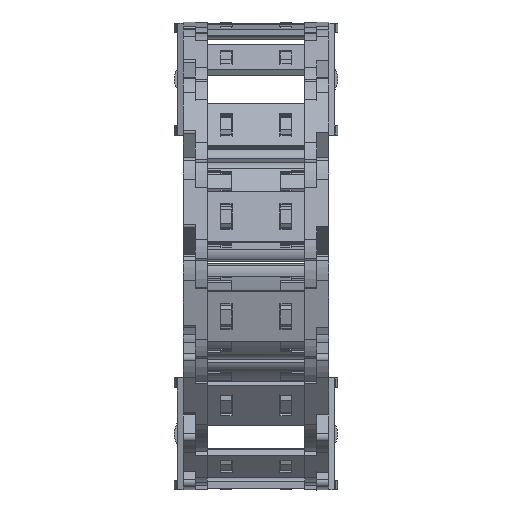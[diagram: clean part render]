
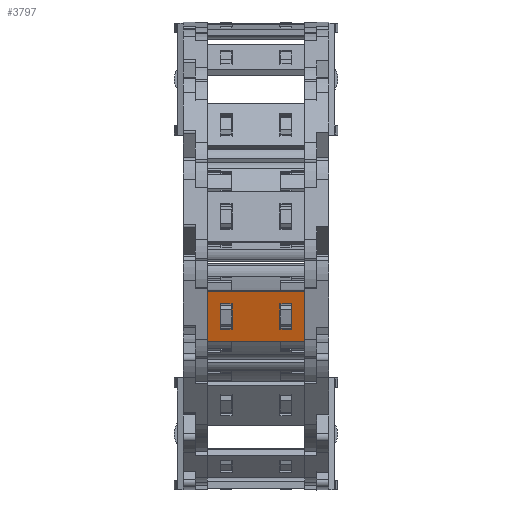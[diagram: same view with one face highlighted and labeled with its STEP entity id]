
A CAD part, top view. The second image highlights one B-rep face of the part: STEP entity #3797.
In plain terms, the highlighted planar face has unit normal (0, -0.259, 0.966) as drawn and (0, 1, 0) by its records, which use the part's own axes.
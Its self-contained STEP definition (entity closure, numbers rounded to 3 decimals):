
#2923=DIRECTION('',(0.,0.,1.));
#2924=VECTOR('',#2923,15.8);
#2925=CARTESIAN_POINT('',(15.24,1.5,-7.9));
#2926=LINE('',#2925,#2924);
#2930=DIRECTION('',(-1.,0.,0.));
#2931=VECTOR('',#2930,30.);
#2932=CARTESIAN_POINT('',(15.24,1.5,7.9));
#2933=LINE('',#2932,#2931);
#2937=DIRECTION('',(0.,0.,-1.));
#2938=VECTOR('',#2937,15.8);
#2939=CARTESIAN_POINT('',(-14.76,1.5,7.9));
#2940=LINE('',#2939,#2938);
#2944=DIRECTION('',(1.,0.,0.));
#2945=VECTOR('',#2944,3.648);
#2946=CARTESIAN_POINT('',(7.622,1.5,4.075));
#2947=LINE('',#2946,#2945);
#2951=DIRECTION('',(0.,0.,-1.));
#2952=VECTOR('',#2951,8.15);
#2953=CARTESIAN_POINT('',(11.27,1.5,4.075));
#2954=LINE('',#2953,#2952);
#2958=DIRECTION('',(-1.,0.,0.));
#2959=VECTOR('',#2958,3.648);
#2960=CARTESIAN_POINT('',(11.27,1.5,-4.075));
#2961=LINE('',#2960,#2959);
#2965=DIRECTION('',(0.,0.,-1.));
#2966=VECTOR('',#2965,8.15);
#2967=CARTESIAN_POINT('',(-7.142,1.5,4.075));
#2968=LINE('',#2967,#2966);
#2972=DIRECTION('',(-1.,0.,0.));
#2973=VECTOR('',#2972,3.648);
#2974=CARTESIAN_POINT('',(-7.142,1.5,-4.075));
#2975=LINE('',#2974,#2973);
#2979=DIRECTION('',(0.,0.,1.));
#2980=VECTOR('',#2979,8.15);
#2981=CARTESIAN_POINT('',(-10.79,1.5,-4.075));
#2982=LINE('',#2981,#2980);
#2986=DIRECTION('',(1.,0.,0.));
#2987=VECTOR('',#2986,3.648);
#2988=CARTESIAN_POINT('',(-10.79,1.5,4.075));
#2989=LINE('',#2988,#2987);
#3000=DIRECTION('',(-1.,0.,0.));
#3001=VECTOR('',#3000,30.);
#3002=CARTESIAN_POINT('',(15.24,1.5,-7.9));
#3003=LINE('',#3002,#3001);
#3208=DIRECTION('',(0.,0.,-1.));
#3209=VECTOR('',#3208,8.15);
#3210=CARTESIAN_POINT('',(7.622,1.5,4.075));
#3211=LINE('',#3210,#3209);
#3507=CARTESIAN_POINT('',(11.27,1.5,4.075));
#3508=VERTEX_POINT('',#3507);
#3509=CARTESIAN_POINT('',(7.622,1.5,4.075));
#3510=VERTEX_POINT('',#3509);
#3551=CARTESIAN_POINT('',(7.622,1.5,-4.075));
#3552=VERTEX_POINT('',#3551);
#3553=CARTESIAN_POINT('',(11.27,1.5,-4.075));
#3554=VERTEX_POINT('',#3553);
#3555=CARTESIAN_POINT('',(15.24,1.5,7.9));
#3557=VERTEX_POINT('',#3555);
#3559=CARTESIAN_POINT('',(15.24,1.5,-7.9));
#3560=VERTEX_POINT('',#3559);
#3583=CARTESIAN_POINT('',(-7.142,1.5,4.075));
#3584=CARTESIAN_POINT('',(-7.142,1.5,-4.075));
#3585=VERTEX_POINT('',#3583);
#3586=VERTEX_POINT('',#3584);
#3587=CARTESIAN_POINT('',(-10.79,1.5,-4.075));
#3588=VERTEX_POINT('',#3587);
#3589=CARTESIAN_POINT('',(-10.79,1.5,4.075));
#3590=VERTEX_POINT('',#3589);
#3591=CARTESIAN_POINT('',(-14.76,1.5,7.9));
#3592=VERTEX_POINT('',#3591);
#3595=CARTESIAN_POINT('',(-14.76,1.5,-7.9));
#3596=VERTEX_POINT('',#3595);
#3766=CARTESIAN_POINT('',(46.98,1.5,10.061));
#3767=DIRECTION('',(0.,-1.,0.));
#3768=DIRECTION('',(0.,0.,-1.));
#3769=AXIS2_PLACEMENT_3D('',#3766,#3767,#3768);
#3770=PLANE('',#3769);
#3771=ORIENTED_EDGE('',*,*,#3669,.T.);
#3772=ORIENTED_EDGE('',*,*,#3707,.T.);
#3773=ORIENTED_EDGE('',*,*,#3732,.T.);
#3775=ORIENTED_EDGE('',*,*,#3774,.F.);
#3776=EDGE_LOOP('',(#3771,#3772,#3773,#3775));
#3777=FACE_OUTER_BOUND('',#3776,.F.);
#3779=ORIENTED_EDGE('',*,*,#3778,.F.);
#3780=ORIENTED_EDGE('',*,*,#3608,.T.);
#3782=ORIENTED_EDGE('',*,*,#3781,.T.);
#3784=ORIENTED_EDGE('',*,*,#3783,.T.);
#3785=EDGE_LOOP('',(#3779,#3780,#3782,#3784));
#3786=FACE_BOUND('',#3785,.F.);
#3788=ORIENTED_EDGE('',*,*,#3787,.T.);
#3790=ORIENTED_EDGE('',*,*,#3789,.T.);
#3792=ORIENTED_EDGE('',*,*,#3791,.T.);
#3794=ORIENTED_EDGE('',*,*,#3793,.T.);
#3795=EDGE_LOOP('',(#3788,#3790,#3792,#3794));
#3796=FACE_BOUND('',#3795,.F.);
#3797=ADVANCED_FACE('',(#3777,#3786,#3796),#3770,.F.);
#3608=EDGE_CURVE('',#3510,#3508,#2947,.T.);
#3669=EDGE_CURVE('',#3560,#3557,#2926,.T.);
#3707=EDGE_CURVE('',#3557,#3592,#2933,.T.);
#3732=EDGE_CURVE('',#3592,#3596,#2940,.T.);
#3774=EDGE_CURVE('',#3560,#3596,#3003,.T.);
#3778=EDGE_CURVE('',#3510,#3552,#3211,.T.);
#3781=EDGE_CURVE('',#3508,#3554,#2954,.T.);
#3783=EDGE_CURVE('',#3554,#3552,#2961,.T.);
#3787=EDGE_CURVE('',#3585,#3586,#2968,.T.);
#3789=EDGE_CURVE('',#3586,#3588,#2975,.T.);
#3791=EDGE_CURVE('',#3588,#3590,#2982,.T.);
#3793=EDGE_CURVE('',#3590,#3585,#2989,.T.);
